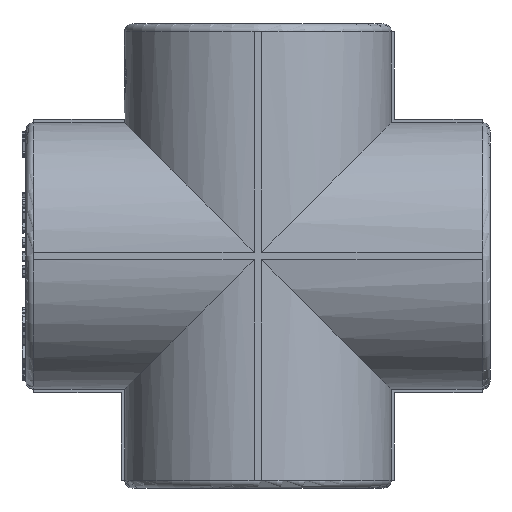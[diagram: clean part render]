
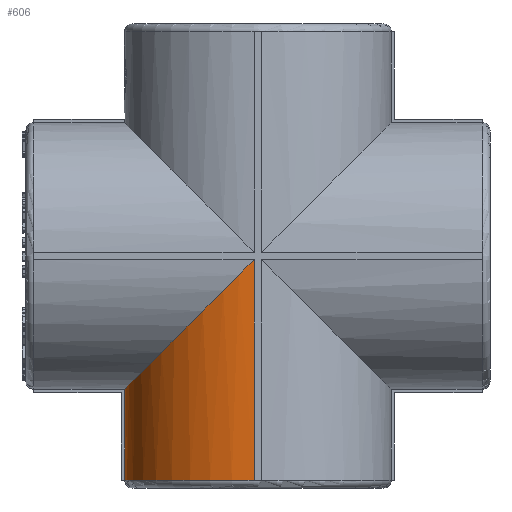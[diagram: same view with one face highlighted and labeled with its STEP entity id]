
A CAD part, left-side view. The second image highlights one B-rep face of the part: STEP entity #606.
In plain terms, the highlighted cylindrical face has radius 17.25 mm (diameter 34.5 mm), a partial arc.
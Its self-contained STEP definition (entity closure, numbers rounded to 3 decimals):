
#606=ADVANCED_FACE('',(#4750),#4752,.T.);
#4750=FACE_BOUND('',#4751,.T.);
#4751=EDGE_LOOP('',(#12298,#12299,#12300,#12301));
#4752=CYLINDRICAL_SURFACE('',#4753,17.25);
#4753=AXIS2_PLACEMENT_3D('',#4754,#4755,#4756);
#4754=CARTESIAN_POINT('',(0.,0.,-30.));
#4755=DIRECTION('',(0.,0.,1.));
#4756=DIRECTION('',(-1.,0.,0.));
#12298=ORIENTED_EDGE('',*,*,#17624,.F.);
#12299=ORIENTED_EDGE('',*,*,#17625,.T.);
#12300=ORIENTED_EDGE('',*,*,#17626,.F.);
#12301=ORIENTED_EDGE('',*,*,#17576,.F.);
#17576=EDGE_CURVE('',#21590,#21592,#21593,.T.);
#17624=EDGE_CURVE('',#21672,#21590,#21674,.T.);
#17625=EDGE_CURVE('',#21672,#21675,#21676,.T.);
#17626=EDGE_CURVE('',#21592,#21675,#21677,.F.);
#21590=VERTEX_POINT('',#29642);
#21592=VERTEX_POINT('',#29646);
#21593=(BOUNDED_CURVE()B_SPLINE_CURVE(3,
(#29647,#29648,#29649,#29650),
.UNSPECIFIED.,.F.,.F.)B_SPLINE_CURVE_WITH_KNOTS((4,4),
(0.,1.),
.UNSPECIFIED.)CURVE()GEOMETRIC_REPRESENTATION_ITEM()RATIONAL_B_SPLINE_CURVE((1.,
0.818,0.818,1.))REPRESENTATION_ITEM(''));
#21672=VERTEX_POINT('',#29899);
#21674=LINE('',#29903,#29904);
#21675=VERTEX_POINT('',#29906);
#21676=CIRCLE('',#29907,17.25);
#21677=LINE('',#29911,#29912);
#29642=CARTESIAN_POINT('',(-0.5,17.243,-17.243));
#29646=CARTESIAN_POINT('',(-17.243,0.5,-0.5));
#29647=CARTESIAN_POINT('',(-0.5,17.243,-17.243));
#29648=CARTESIAN_POINT('',(-10.142,16.963,-16.963));
#29649=CARTESIAN_POINT('',(-16.963,10.142,-10.142));
#29650=CARTESIAN_POINT('',(-17.243,0.5,-0.5));
#29899=CARTESIAN_POINT('',(-0.5,17.243,-29.));
#29903=CARTESIAN_POINT('',(-0.5,17.243,-29.));
#29904=VECTOR('',#29905,1.);
#29905=DIRECTION('',(0.,0.,1.));
#29906=CARTESIAN_POINT('',(-17.243,0.5,-29.));
#29907=AXIS2_PLACEMENT_3D('',#29908,#29909,#29910);
#29908=CARTESIAN_POINT('',(0.,0.,-29.));
#29909=DIRECTION('',(0.,0.,1.));
#29910=DIRECTION('',(-0.029,1.,0.));
#29911=CARTESIAN_POINT('',(-17.243,0.5,-29.));
#29912=VECTOR('',#29913,1.);
#29913=DIRECTION('',(0.,0.,1.));
